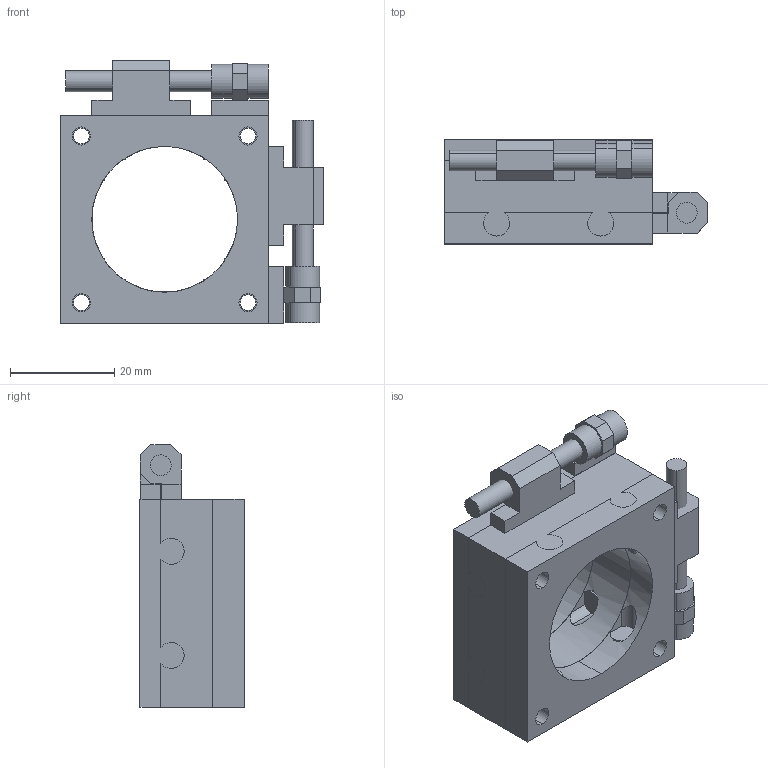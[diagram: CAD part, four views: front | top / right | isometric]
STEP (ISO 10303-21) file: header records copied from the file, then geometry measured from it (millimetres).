
FILE_DESCRIPTION (( 'STEP AP203' ), '1' );
FILE_NAME ('LD-P4051FX.STEP', '2017-11-21T04:16:02', ( '' ), ( '' ), 'SwSTEP 2.0', 'SolidWorks 2016', '' );
FILE_SCHEMA (( 'CONFIG_CONTROL_DESIGN' ));
Length unit declared in the file: millimetre
Products named in the file (4): LD-P4051FX-1; LD-P4051FX-2; LD-P4051FX-3; LD-P4051FX
Assembly tree (3 placements, depth 2):
  LD-P4051FX
    LD-P4051FX-1
    LD-P4051FX-2
    LD-P4051FX-3
Bounding box: 50.5 x 20 x 50.5 mm (x, y, z)
Volume: 21622.6 mm3; surface area: 15473.3 mm2
Topology: 3 solids, 3 shells, 218 faces, 578 edges, 384 vertices
Faces by surface type: cylinder 114, plane 104
Entity records: 7656 total; most frequent: CARTESIAN_POINT 1594, DIRECTION 1214, ORIENTED_EDGE 1156, EDGE_CURVE 578, AXIS2_PLACEMENT_3D 436, VERTEX_POINT 384, VECTOR 342, LINE 342
